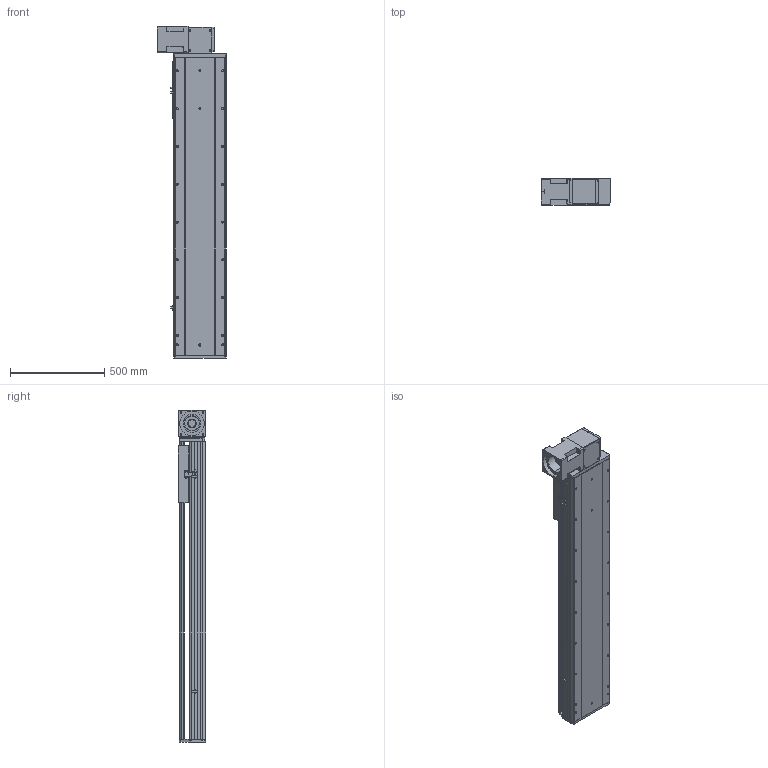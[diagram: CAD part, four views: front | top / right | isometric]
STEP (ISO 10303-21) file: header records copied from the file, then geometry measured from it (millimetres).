
FILE_DESCRIPTION (( 'STEP AP214' ), '1' );
FILE_NAME ('RTB28R-XX-1150-BR-M100-XX-C4.STEP', '2025-12-22T01:11:29', ( '' ), ( '' ), 'SwSTEP 2.0', 'SolidWorks 2018', '' );
FILE_SCHEMA (( 'AUTOMOTIVE_DESIGN' ));
Length unit declared in the file: millimetre
Products named in the file (4): RTB28S-GY-004^RTB28R-XX-XX-BR-M100-XX-C4; RTB28R-XX-1150-BR-M100-XX-C4; RTB28S-GY-008^RTB28R-XX-XX-BR-M100-XX-C4; RTB28S-GY-011^RTB28R-XX-XX-BR-M100-XX-C4
Assembly tree (3 placements, depth 2):
  RTB28R-XX-1150-BR-M100-XX-C4
    RTB28S-GY-011^RTB28R-XX-XX-BR-M100-XX-C4
    RTB28S-GY-004^RTB28R-XX-XX-BR-M100-XX-C4
    RTB28S-GY-008^RTB28R-XX-XX-BR-M100-XX-C4
Bounding box: 370 x 145 x 1757 mm (x, y, z)
Volume: 31969496.3 mm3; surface area: 3076160.2 mm2
Topology: 3 solids, 4 shells, 998 faces, 2640 edges, 1696 vertices
Faces by surface type: plane 458, cylinder 369, bspline 87, cone 80, torus 4
Entity records: 42688 total; most frequent: CARTESIAN_POINT 11395, ORIENTED_EDGE 5216, DIRECTION 5064, EDGE_CURVE 2608, AXIS2_PLACEMENT_3D 1741, VERTEX_POINT 1696, LINE 1582, VECTOR 1582
